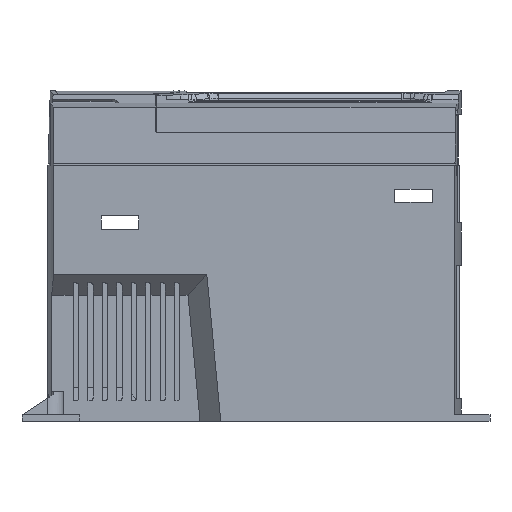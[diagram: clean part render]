
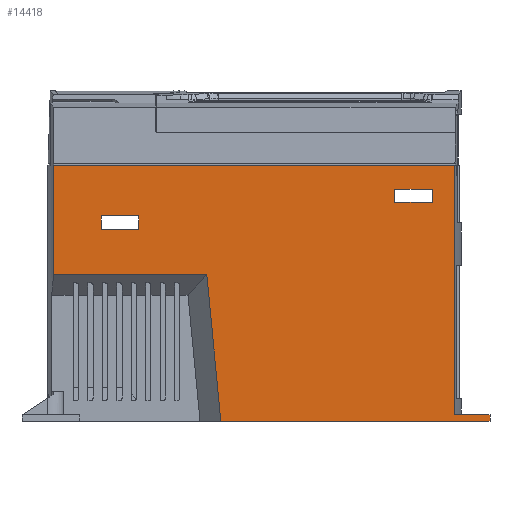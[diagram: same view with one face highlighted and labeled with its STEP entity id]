
A CAD part, left-side view. The second image highlights one B-rep face of the part: STEP entity #14418.
In plain terms, the highlighted planar face has unit normal (-1, 0, 0).
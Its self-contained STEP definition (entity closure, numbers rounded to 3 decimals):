
#25 = DIRECTION ( 'NONE',  ( 0., 1., 0. ) ) ;
#433 = CARTESIAN_POINT ( 'NONE',  ( -45., -86., 112.4 ) ) ;
#971 = LINE ( 'NONE', #17806, #39825 ) ;
#1182 = VECTOR ( 'NONE', #39187, 1000. ) ;
#1386 = DIRECTION ( 'NONE',  ( 0., -1., 0. ) ) ;
#1510 = CARTESIAN_POINT ( 'NONE',  ( -45., 100., 0. ) ) ;
#1818 = DIRECTION ( 'NONE',  ( 0., 1., 0. ) ) ;
#2071 = VECTOR ( 'NONE', #33594, 1000. ) ;
#2138 = CARTESIAN_POINT ( 'NONE',  ( -45., -86., 105.9 ) ) ;
#2616 = CARTESIAN_POINT ( 'NONE',  ( -45., 74., 99.4 ) ) ;
#2703 = VERTEX_POINT ( 'NONE', #4439 ) ;
#3199 = CARTESIAN_POINT ( 'NONE',  ( -45., 74., 92.9 ) ) ;
#3896 = VERTEX_POINT ( 'NONE', #23750 ) ;
#4439 = CARTESIAN_POINT ( 'NONE',  ( -45., -68., 105.9 ) ) ;
#4922 = ORIENTED_EDGE ( 'NONE', *, *, #13316, .F. ) ;
#5606 = LINE ( 'NONE', #19201, #40154 ) ;
#5688 = VERTEX_POINT ( 'NONE', #15156 ) ;
#6897 = EDGE_CURVE ( 'NONE', #34160, #5688, #12710, .T. ) ;
#7022 = VERTEX_POINT ( 'NONE', #433 ) ;
#7033 = CARTESIAN_POINT ( 'NONE',  ( -45., -68., 112.4 ) ) ;
#7472 = ORIENTED_EDGE ( 'NONE', *, *, #41277, .F. ) ;
#7847 = VERTEX_POINT ( 'NONE', #37042 ) ;
#8027 = DIRECTION ( 'NONE',  ( 0., -1., 0. ) ) ;
#8472 = FACE_OUTER_BOUND ( 'NONE', #28398, .T. ) ;
#8554 = DIRECTION ( 'NONE',  ( 0., 1., 0. ) ) ;
#8902 = DIRECTION ( 'NONE',  ( 0., 0., 1. ) ) ;
#8934 = DIRECTION ( 'NONE',  ( 0., -0.095, -0.995 ) ) ;
#9025 = CARTESIAN_POINT ( 'NONE',  ( -45., 97.055, 71. ) ) ;
#9216 = VECTOR ( 'NONE', #8554, 1000. ) ;
#9519 = CARTESIAN_POINT ( 'NONE',  ( -45., -114., 3.2 ) ) ;
#9642 = ORIENTED_EDGE ( 'NONE', *, *, #31496, .F. ) ;
#10059 = ORIENTED_EDGE ( 'NONE', *, *, #6897, .T. ) ;
#10108 = ORIENTED_EDGE ( 'NONE', *, *, #22063, .F. ) ;
#11229 = DIRECTION ( 'NONE',  ( 0., 0., 1. ) ) ;
#12710 = LINE ( 'NONE', #39222, #31722 ) ;
#12799 = VERTEX_POINT ( 'NONE', #9519 ) ;
#13028 = ORIENTED_EDGE ( 'NONE', *, *, #39806, .F. ) ;
#13162 = VERTEX_POINT ( 'NONE', #26043 ) ;
#13316 = EDGE_CURVE ( 'NONE', #23227, #17183, #39883, .T. ) ;
#13389 = DIRECTION ( 'NONE',  ( 0., 0., -1. ) ) ;
#14286 = ORIENTED_EDGE ( 'NONE', *, *, #42272, .F. ) ;
#14418 = ADVANCED_FACE ( 'NONE', ( #31972, #31547, #8472 ), #35488, .T. ) ;
#14613 = LINE ( 'NONE', #17679, #17050 ) ;
#15156 = CARTESIAN_POINT ( 'NONE',  ( -45., 16.199, 0. ) ) ;
#15524 = VECTOR ( 'NONE', #33636, 1000. ) ;
#15968 = DIRECTION ( 'NONE',  ( 0., 0., -1. ) ) ;
#15970 = EDGE_CURVE ( 'NONE', #7022, #37029, #29386, .T. ) ;
#17050 = VECTOR ( 'NONE', #8027, 1000. ) ;
#17161 = CARTESIAN_POINT ( 'NONE',  ( -45., 56., 92.9 ) ) ;
#17183 = VERTEX_POINT ( 'NONE', #3199 ) ;
#17679 = CARTESIAN_POINT ( 'NONE',  ( -45., 74., 92.9 ) ) ;
#17800 = VECTOR ( 'NONE', #1386, 1000. ) ;
#17806 = CARTESIAN_POINT ( 'NONE',  ( -45., -114., 0. ) ) ;
#18128 = ORIENTED_EDGE ( 'NONE', *, *, #34983, .T. ) ;
#18151 = ORIENTED_EDGE ( 'NONE', *, *, #39566, .T. ) ;
#18802 = DIRECTION ( 'NONE',  ( -1., 0., 0. ) ) ;
#18807 = LINE ( 'NONE', #2138, #37087 ) ;
#18995 = DIRECTION ( 'NONE',  ( 0., 1., 0. ) ) ;
#19201 = CARTESIAN_POINT ( 'NONE',  ( -45., 23., 71. ) ) ;
#20380 = VERTEX_POINT ( 'NONE', #38728 ) ;
#20572 = VERTEX_POINT ( 'NONE', #9025 ) ;
#21838 = VERTEX_POINT ( 'NONE', #32783 ) ;
#21910 = DIRECTION ( 'NONE',  ( 0., 1., 0. ) ) ;
#22063 = EDGE_CURVE ( 'NONE', #29659, #5688, #41503, .T. ) ;
#23042 = LINE ( 'NONE', #40370, #41268 ) ;
#23227 = VERTEX_POINT ( 'NONE', #27904 ) ;
#23724 = EDGE_LOOP ( 'NONE', ( #9642, #25835, #24193, #4922 ) ) ;
#23750 = CARTESIAN_POINT ( 'NONE',  ( -45., 56., 99.4 ) ) ;
#23918 = CARTESIAN_POINT ( 'NONE',  ( -45., 56., 99.4 ) ) ;
#24193 = ORIENTED_EDGE ( 'NONE', *, *, #32495, .F. ) ;
#24217 = LINE ( 'NONE', #37560, #17800 ) ;
#24863 = CARTESIAN_POINT ( 'NONE',  ( -45., -114., 3.2 ) ) ;
#25116 = VECTOR ( 'NONE', #25, 1000. ) ;
#25187 = EDGE_LOOP ( 'NONE', ( #28060, #14286, #7472, #13028 ) ) ;
#25237 = CARTESIAN_POINT ( 'NONE',  ( -45., -86., 112.4 ) ) ;
#25410 = CARTESIAN_POINT ( 'NONE',  ( -45., -97.055, 3.2 ) ) ;
#25835 = ORIENTED_EDGE ( 'NONE', *, *, #39505, .F. ) ;
#26043 = CARTESIAN_POINT ( 'NONE',  ( -45., -97.055, 3.2 ) ) ;
#26590 = VERTEX_POINT ( 'NONE', #40845 ) ;
#27529 = CARTESIAN_POINT ( 'NONE',  ( -45., -114., 0. ) ) ;
#27904 = CARTESIAN_POINT ( 'NONE',  ( -45., 74., 99.4 ) ) ;
#28060 = ORIENTED_EDGE ( 'NONE', *, *, #15970, .F. ) ;
#28183 = VECTOR ( 'NONE', #21910, 1000. ) ;
#28398 = EDGE_LOOP ( 'NONE', ( #39686, #10059, #10108, #36755, #18151, #18128, #28977, #32918 ) ) ;
#28977 = ORIENTED_EDGE ( 'NONE', *, *, #33027, .F. ) ;
#29337 = LINE ( 'NONE', #25410, #1182 ) ;
#29386 = LINE ( 'NONE', #25237, #28183 ) ;
#29435 = LINE ( 'NONE', #42996, #2071 ) ;
#29659 = VERTEX_POINT ( 'NONE', #27529 ) ;
#30641 = VECTOR ( 'NONE', #1818, 1000. ) ;
#31213 = LINE ( 'NONE', #17161, #15524 ) ;
#31336 = VECTOR ( 'NONE', #41637, 1000. ) ;
#31496 = EDGE_CURVE ( 'NONE', #3896, #23227, #40556, .T. ) ;
#31547 = FACE_BOUND ( 'NONE', #23724, .T. ) ;
#31722 = VECTOR ( 'NONE', #8934, 1000. ) ;
#31972 = FACE_BOUND ( 'NONE', #25187, .T. ) ;
#32184 = DIRECTION ( 'NONE',  ( 0., 0., 1. ) ) ;
#32495 = EDGE_CURVE ( 'NONE', #17183, #26590, #14613, .T. ) ;
#32653 = EDGE_CURVE ( 'NONE', #34160, #20572, #5606, .T. ) ;
#32783 = CARTESIAN_POINT ( 'NONE',  ( -45., 97.055, 124. ) ) ;
#32918 = ORIENTED_EDGE ( 'NONE', *, *, #37107, .T. ) ;
#33027 = EDGE_CURVE ( 'NONE', #21838, #7847, #24217, .T. ) ;
#33594 = DIRECTION ( 'NONE',  ( 0., -1., 0. ) ) ;
#33636 = DIRECTION ( 'NONE',  ( 0., 0., 1. ) ) ;
#34160 = VERTEX_POINT ( 'NONE', #40330 ) ;
#34983 = EDGE_CURVE ( 'NONE', #13162, #7847, #29337, .T. ) ;
#35098 = LINE ( 'NONE', #41853, #31336 ) ;
#35488 = PLANE ( 'NONE',  #41768 ) ;
#35579 = LINE ( 'NONE', #24863, #9216 ) ;
#36755 = ORIENTED_EDGE ( 'NONE', *, *, #36853, .T. ) ;
#36853 = EDGE_CURVE ( 'NONE', #29659, #12799, #971, .T. ) ;
#37029 = VERTEX_POINT ( 'NONE', #7033 ) ;
#37042 = CARTESIAN_POINT ( 'NONE',  ( -45., -97.055, 124. ) ) ;
#37087 = VECTOR ( 'NONE', #8902, 1000. ) ;
#37107 = EDGE_CURVE ( 'NONE', #21838, #20572, #23042, .T. ) ;
#37455 = VECTOR ( 'NONE', #15968, 1000. ) ;
#37560 = CARTESIAN_POINT ( 'NONE',  ( -45., 97.055, 124. ) ) ;
#38728 = CARTESIAN_POINT ( 'NONE',  ( -45., -86., 105.9 ) ) ;
#39187 = DIRECTION ( 'NONE',  ( 0., 0., 1. ) ) ;
#39222 = CARTESIAN_POINT ( 'NONE',  ( -45., 23., 71. ) ) ;
#39505 = EDGE_CURVE ( 'NONE', #26590, #3896, #31213, .T. ) ;
#39566 = EDGE_CURVE ( 'NONE', #12799, #13162, #35579, .T. ) ;
#39686 = ORIENTED_EDGE ( 'NONE', *, *, #32653, .F. ) ;
#39806 = EDGE_CURVE ( 'NONE', #37029, #2703, #35098, .T. ) ;
#39825 = VECTOR ( 'NONE', #11229, 1000. ) ;
#39883 = LINE ( 'NONE', #2616, #37455 ) ;
#40154 = VECTOR ( 'NONE', #18995, 1000. ) ;
#40330 = CARTESIAN_POINT ( 'NONE',  ( -45., 23., 71. ) ) ;
#40370 = CARTESIAN_POINT ( 'NONE',  ( -45., 97.055, 124. ) ) ;
#40556 = LINE ( 'NONE', #23918, #25116 ) ;
#40845 = CARTESIAN_POINT ( 'NONE',  ( -45., 56., 92.9 ) ) ;
#41268 = VECTOR ( 'NONE', #13389, 1000. ) ;
#41277 = EDGE_CURVE ( 'NONE', #2703, #20380, #29435, .T. ) ;
#41503 = LINE ( 'NONE', #42139, #30641 ) ;
#41637 = DIRECTION ( 'NONE',  ( 0., 0., -1. ) ) ;
#41768 = AXIS2_PLACEMENT_3D ( 'NONE', #1510, #18802, #32184 ) ;
#41853 = CARTESIAN_POINT ( 'NONE',  ( -45., -68., 112.4 ) ) ;
#42139 = CARTESIAN_POINT ( 'NONE',  ( -45., -114., 0. ) ) ;
#42272 = EDGE_CURVE ( 'NONE', #20380, #7022, #18807, .T. ) ;
#42996 = CARTESIAN_POINT ( 'NONE',  ( -45., -68., 105.9 ) ) ;
